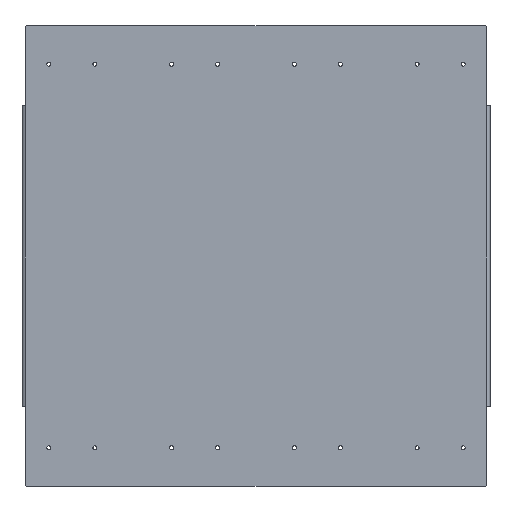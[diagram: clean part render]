
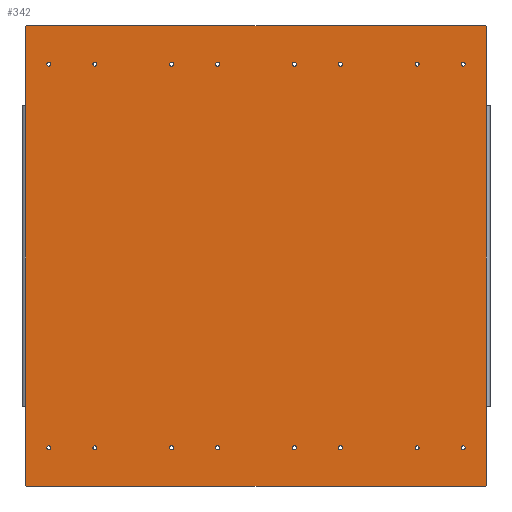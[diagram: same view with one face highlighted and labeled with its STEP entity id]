
A CAD part, top view. The second image highlights one B-rep face of the part: STEP entity #342.
In plain terms, the highlighted planar face has unit normal (0, 0, 1).
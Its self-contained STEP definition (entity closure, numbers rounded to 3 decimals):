
#59=CARTESIAN_POINT('',(1580.,4693.5,567.5));
#60=DIRECTION('',(-0.,-0.,1.));
#61=DIRECTION('',(0.,1.,0.));
#62=AXIS2_PLACEMENT_3D('',#59,#60,#61);
#63=PLANE('',#62);
#64=CARTESIAN_POINT('',(1110.,4730.9,567.5));
#65=VERTEX_POINT('',#64);
#66=CARTESIAN_POINT('',(1110.,4733.5,567.5));
#67=DIRECTION('',(-0.,-0.,1.));
#68=DIRECTION('',(0.,-1.,-0.));
#69=AXIS2_PLACEMENT_3D('',#66,#67,#68);
#70=CIRCLE('',#69,2.6);
#71=EDGE_CURVE('',#65,#65,#70,.T.);
#72=ORIENTED_EDGE('',*,*,#71,.F.);
#73=EDGE_LOOP('',(#72));
#74=FACE_BOUND('',#73,.T.);
#75=CARTESIAN_POINT('',(1210.,4730.9,567.5));
#76=VERTEX_POINT('',#75);
#77=CARTESIAN_POINT('',(1210.,4733.5,567.5));
#78=DIRECTION('',(-0.,-0.,1.));
#79=DIRECTION('',(0.,-1.,-0.));
#80=AXIS2_PLACEMENT_3D('',#77,#78,#79);
#81=CIRCLE('',#80,2.6);
#82=EDGE_CURVE('',#76,#76,#81,.T.);
#83=ORIENTED_EDGE('',*,*,#82,.F.);
#84=EDGE_LOOP('',(#83));
#85=FACE_BOUND('',#84,.T.);
#86=CARTESIAN_POINT('',(1050.,4730.9,567.5));
#87=VERTEX_POINT('',#86);
#88=CARTESIAN_POINT('',(1050.,4733.5,567.5));
#89=DIRECTION('',(-0.,-0.,1.));
#90=DIRECTION('',(0.,-1.,-0.));
#91=AXIS2_PLACEMENT_3D('',#88,#89,#90);
#92=CIRCLE('',#91,2.6);
#93=EDGE_CURVE('',#87,#87,#92,.T.);
#94=ORIENTED_EDGE('',*,*,#93,.F.);
#95=EDGE_LOOP('',(#94));
#96=FACE_BOUND('',#95,.T.);
#97=CARTESIAN_POINT('',(1270.,4730.9,567.5));
#98=VERTEX_POINT('',#97);
#99=CARTESIAN_POINT('',(1270.,4733.5,567.5));
#100=DIRECTION('',(-0.,-0.,1.));
#101=DIRECTION('',(0.,-1.,-0.));
#102=AXIS2_PLACEMENT_3D('',#99,#100,#101);
#103=CIRCLE('',#102,2.6);
#104=EDGE_CURVE('',#98,#98,#103,.T.);
#105=ORIENTED_EDGE('',*,*,#104,.F.);
#106=EDGE_LOOP('',(#105));
#107=FACE_BOUND('',#106,.T.);
#108=CARTESIAN_POINT('',(1370.,4730.9,567.5));
#109=VERTEX_POINT('',#108);
#110=CARTESIAN_POINT('',(1370.,4733.5,567.5));
#111=DIRECTION('',(-0.,-0.,1.));
#112=DIRECTION('',(0.,-1.,-0.));
#113=AXIS2_PLACEMENT_3D('',#110,#111,#112);
#114=CIRCLE('',#113,2.6);
#115=EDGE_CURVE('',#109,#109,#114,.T.);
#116=ORIENTED_EDGE('',*,*,#115,.F.);
#117=EDGE_LOOP('',(#116));
#118=FACE_BOUND('',#117,.T.);
#119=CARTESIAN_POINT('',(1430.,4730.9,567.5));
#120=VERTEX_POINT('',#119);
#121=CARTESIAN_POINT('',(1430.,4733.5,567.5));
#122=DIRECTION('',(-0.,-0.,1.));
#123=DIRECTION('',(0.,-1.,-0.));
#124=AXIS2_PLACEMENT_3D('',#121,#122,#123);
#125=CIRCLE('',#124,2.6);
#126=EDGE_CURVE('',#120,#120,#125,.T.);
#127=ORIENTED_EDGE('',*,*,#126,.F.);
#128=EDGE_LOOP('',(#127));
#129=FACE_BOUND('',#128,.T.);
#130=CARTESIAN_POINT('',(1530.,4730.9,567.5));
#131=VERTEX_POINT('',#130);
#132=CARTESIAN_POINT('',(1530.,4733.5,567.5));
#133=DIRECTION('',(-0.,-0.,1.));
#134=DIRECTION('',(0.,-1.,-0.));
#135=AXIS2_PLACEMENT_3D('',#132,#133,#134);
#136=CIRCLE('',#135,2.6);
#137=EDGE_CURVE('',#131,#131,#136,.T.);
#138=ORIENTED_EDGE('',*,*,#137,.F.);
#139=EDGE_LOOP('',(#138));
#140=FACE_BOUND('',#139,.T.);
#141=CARTESIAN_POINT('',(1590.,4730.9,567.5));
#142=VERTEX_POINT('',#141);
#143=CARTESIAN_POINT('',(1590.,4733.5,567.5));
#144=DIRECTION('',(-0.,-0.,1.));
#145=DIRECTION('',(0.,-1.,-0.));
#146=AXIS2_PLACEMENT_3D('',#143,#144,#145);
#147=CIRCLE('',#146,2.6);
#148=EDGE_CURVE('',#142,#142,#147,.T.);
#149=ORIENTED_EDGE('',*,*,#148,.F.);
#150=EDGE_LOOP('',(#149));
#151=FACE_BOUND('',#150,.T.);
#152=CARTESIAN_POINT('',(1270.,5230.9,567.5));
#153=VERTEX_POINT('',#152);
#154=CARTESIAN_POINT('',(1270.,5233.5,567.5));
#155=DIRECTION('',(-0.,-0.,1.));
#156=DIRECTION('',(0.,-1.,-0.));
#157=AXIS2_PLACEMENT_3D('',#154,#155,#156);
#158=CIRCLE('',#157,2.6);
#159=EDGE_CURVE('',#153,#153,#158,.T.);
#160=ORIENTED_EDGE('',*,*,#159,.F.);
#161=EDGE_LOOP('',(#160));
#162=FACE_BOUND('',#161,.T.);
#163=CARTESIAN_POINT('',(1050.,5230.9,567.5));
#164=VERTEX_POINT('',#163);
#165=CARTESIAN_POINT('',(1050.,5233.5,567.5));
#166=DIRECTION('',(-0.,-0.,1.));
#167=DIRECTION('',(0.,-1.,-0.));
#168=AXIS2_PLACEMENT_3D('',#165,#166,#167);
#169=CIRCLE('',#168,2.6);
#170=EDGE_CURVE('',#164,#164,#169,.T.);
#171=ORIENTED_EDGE('',*,*,#170,.F.);
#172=EDGE_LOOP('',(#171));
#173=FACE_BOUND('',#172,.T.);
#174=CARTESIAN_POINT('',(1210.,5230.9,567.5));
#175=VERTEX_POINT('',#174);
#176=CARTESIAN_POINT('',(1210.,5233.5,567.5));
#177=DIRECTION('',(-0.,-0.,1.));
#178=DIRECTION('',(0.,-1.,-0.));
#179=AXIS2_PLACEMENT_3D('',#176,#177,#178);
#180=CIRCLE('',#179,2.6);
#181=EDGE_CURVE('',#175,#175,#180,.T.);
#182=ORIENTED_EDGE('',*,*,#181,.F.);
#183=EDGE_LOOP('',(#182));
#184=FACE_BOUND('',#183,.T.);
#185=CARTESIAN_POINT('',(1110.,5230.9,567.5));
#186=VERTEX_POINT('',#185);
#187=CARTESIAN_POINT('',(1110.,5233.5,567.5));
#188=DIRECTION('',(-0.,-0.,1.));
#189=DIRECTION('',(0.,-1.,-0.));
#190=AXIS2_PLACEMENT_3D('',#187,#188,#189);
#191=CIRCLE('',#190,2.6);
#192=EDGE_CURVE('',#186,#186,#191,.T.);
#193=ORIENTED_EDGE('',*,*,#192,.F.);
#194=EDGE_LOOP('',(#193));
#195=FACE_BOUND('',#194,.T.);
#196=CARTESIAN_POINT('',(1530.,5230.9,567.5));
#197=VERTEX_POINT('',#196);
#198=CARTESIAN_POINT('',(1530.,5233.5,567.5));
#199=DIRECTION('',(-0.,-0.,1.));
#200=DIRECTION('',(0.,-1.,-0.));
#201=AXIS2_PLACEMENT_3D('',#198,#199,#200);
#202=CIRCLE('',#201,2.6);
#203=EDGE_CURVE('',#197,#197,#202,.T.);
#204=ORIENTED_EDGE('',*,*,#203,.F.);
#205=EDGE_LOOP('',(#204));
#206=FACE_BOUND('',#205,.T.);
#207=CARTESIAN_POINT('',(1370.,5230.9,567.5));
#208=VERTEX_POINT('',#207);
#209=CARTESIAN_POINT('',(1370.,5233.5,567.5));
#210=DIRECTION('',(-0.,-0.,1.));
#211=DIRECTION('',(0.,-1.,-0.));
#212=AXIS2_PLACEMENT_3D('',#209,#210,#211);
#213=CIRCLE('',#212,2.6);
#214=EDGE_CURVE('',#208,#208,#213,.T.);
#215=ORIENTED_EDGE('',*,*,#214,.F.);
#216=EDGE_LOOP('',(#215));
#217=FACE_BOUND('',#216,.T.);
#218=CARTESIAN_POINT('',(1430.,5230.9,567.5));
#219=VERTEX_POINT('',#218);
#220=CARTESIAN_POINT('',(1430.,5233.5,567.5));
#221=DIRECTION('',(-0.,-0.,1.));
#222=DIRECTION('',(0.,-1.,-0.));
#223=AXIS2_PLACEMENT_3D('',#220,#221,#222);
#224=CIRCLE('',#223,2.6);
#225=EDGE_CURVE('',#219,#219,#224,.T.);
#226=ORIENTED_EDGE('',*,*,#225,.F.);
#227=EDGE_LOOP('',(#226));
#228=FACE_BOUND('',#227,.T.);
#229=CARTESIAN_POINT('',(1590.,5230.9,567.5));
#230=VERTEX_POINT('',#229);
#231=CARTESIAN_POINT('',(1590.,5233.5,567.5));
#232=DIRECTION('',(-0.,-0.,1.));
#233=DIRECTION('',(0.,-1.,-0.));
#234=AXIS2_PLACEMENT_3D('',#231,#232,#233);
#235=CIRCLE('',#234,2.6);
#236=EDGE_CURVE('',#230,#230,#235,.T.);
#237=ORIENTED_EDGE('',*,*,#236,.F.);
#238=EDGE_LOOP('',(#237));
#239=FACE_BOUND('',#238,.T.);
#240=CARTESIAN_POINT('',(1620.,4787.5,567.5));
#241=VERTEX_POINT('',#240);
#242=CARTESIAN_POINT('',(1620.,4684.5,567.5));
#243=VERTEX_POINT('',#242);
#244=CARTESIAN_POINT('',(1620.,4787.5,567.5));
#245=DIRECTION('',(0.,-1.,-0.));
#246=VECTOR('',#245,103.);
#247=LINE('',#244,#246);
#248=EDGE_CURVE('',#241,#243,#247,.T.);
#249=ORIENTED_EDGE('',*,*,#248,.F.);
#250=CARTESIAN_POINT('',(1620.,5179.5,567.5));
#251=VERTEX_POINT('',#250);
#252=CARTESIAN_POINT('',(1620.,4787.5,567.5));
#253=DIRECTION('',(0.,1.,0.));
#254=VECTOR('',#253,392.);
#255=LINE('',#252,#254);
#256=EDGE_CURVE('',#241,#251,#255,.T.);
#257=ORIENTED_EDGE('',*,*,#256,.T.);
#258=CARTESIAN_POINT('',(1620.,5282.5,567.5));
#259=VERTEX_POINT('',#258);
#260=CARTESIAN_POINT('',(1620.,5179.5,567.5));
#261=DIRECTION('',(0.,1.,0.));
#262=VECTOR('',#261,103.);
#263=LINE('',#260,#262);
#264=EDGE_CURVE('',#251,#259,#263,.T.);
#265=ORIENTED_EDGE('',*,*,#264,.T.);
#266=CARTESIAN_POINT('',(1619.,5283.5,567.5));
#267=VERTEX_POINT('',#266);
#268=CARTESIAN_POINT('',(1619.,5282.5,567.5));
#269=DIRECTION('',(-0.,-0.,1.));
#270=DIRECTION('',(0.,-1.,-0.));
#271=AXIS2_PLACEMENT_3D('',#268,#269,#270);
#272=CIRCLE('',#271,1.);
#273=EDGE_CURVE('',#259,#267,#272,.T.);
#274=ORIENTED_EDGE('',*,*,#273,.T.);
#275=CARTESIAN_POINT('',(1021.,5283.5,567.5));
#276=VERTEX_POINT('',#275);
#277=CARTESIAN_POINT('',(1619.,5283.5,567.5));
#278=DIRECTION('',(-1.,0.,0.));
#279=VECTOR('',#278,598.);
#280=LINE('',#277,#279);
#281=EDGE_CURVE('',#267,#276,#280,.T.);
#282=ORIENTED_EDGE('',*,*,#281,.T.);
#283=CARTESIAN_POINT('',(1020.,5282.5,567.5));
#284=VERTEX_POINT('',#283);
#285=CARTESIAN_POINT('',(1021.,5282.5,567.5));
#286=DIRECTION('',(-0.,-0.,1.));
#287=DIRECTION('',(0.,-1.,-0.));
#288=AXIS2_PLACEMENT_3D('',#285,#286,#287);
#289=CIRCLE('',#288,1.);
#290=EDGE_CURVE('',#276,#284,#289,.T.);
#291=ORIENTED_EDGE('',*,*,#290,.T.);
#292=CARTESIAN_POINT('',(1020.,5179.5,567.5));
#293=VERTEX_POINT('',#292);
#294=CARTESIAN_POINT('',(1020.,5179.5,567.5));
#295=DIRECTION('',(0.,1.,0.));
#296=VECTOR('',#295,103.);
#297=LINE('',#294,#296);
#298=EDGE_CURVE('',#293,#284,#297,.T.);
#299=ORIENTED_EDGE('',*,*,#298,.F.);
#300=CARTESIAN_POINT('',(1020.,4787.5,567.5));
#301=VERTEX_POINT('',#300);
#302=CARTESIAN_POINT('',(1020.,5179.5,567.5));
#303=DIRECTION('',(-0.,-1.,-0.));
#304=VECTOR('',#303,392.);
#305=LINE('',#302,#304);
#306=EDGE_CURVE('',#293,#301,#305,.T.);
#307=ORIENTED_EDGE('',*,*,#306,.T.);
#308=CARTESIAN_POINT('',(1020.,4684.5,567.5));
#309=VERTEX_POINT('',#308);
#310=CARTESIAN_POINT('',(1020.,4787.5,567.5));
#311=DIRECTION('',(0.,-1.,-0.));
#312=VECTOR('',#311,103.);
#313=LINE('',#310,#312);
#314=EDGE_CURVE('',#301,#309,#313,.T.);
#315=ORIENTED_EDGE('',*,*,#314,.T.);
#316=CARTESIAN_POINT('',(1021.,4683.5,567.5));
#317=VERTEX_POINT('',#316);
#318=CARTESIAN_POINT('',(1021.,4684.5,567.5));
#319=DIRECTION('',(-0.,-0.,1.));
#320=DIRECTION('',(0.,-1.,-0.));
#321=AXIS2_PLACEMENT_3D('',#318,#319,#320);
#322=CIRCLE('',#321,1.);
#323=EDGE_CURVE('',#309,#317,#322,.T.);
#324=ORIENTED_EDGE('',*,*,#323,.T.);
#325=CARTESIAN_POINT('',(1619.,4683.5,567.5));
#326=VERTEX_POINT('',#325);
#327=CARTESIAN_POINT('',(1619.,4683.5,567.5));
#328=DIRECTION('',(-1.,0.,0.));
#329=VECTOR('',#328,598.);
#330=LINE('',#327,#329);
#331=EDGE_CURVE('',#326,#317,#330,.T.);
#332=ORIENTED_EDGE('',*,*,#331,.F.);
#333=CARTESIAN_POINT('',(1619.,4684.5,567.5));
#334=DIRECTION('',(-0.,-0.,1.));
#335=DIRECTION('',(0.,-1.,-0.));
#336=AXIS2_PLACEMENT_3D('',#333,#334,#335);
#337=CIRCLE('',#336,1.);
#338=EDGE_CURVE('',#326,#243,#337,.T.);
#339=ORIENTED_EDGE('',*,*,#338,.T.);
#340=EDGE_LOOP('',(#249,#257,#265,#274,#282,#291,#299,#307,#315,#324,#332,#339));
#341=FACE_BOUND('',#340,.T.);
#342=ADVANCED_FACE('',(#74,#85,#96,#107,#118,#129,#140,#151,#162,#173,#184,#195,#206,#217,#228,#239,#341),#63,.T.);
